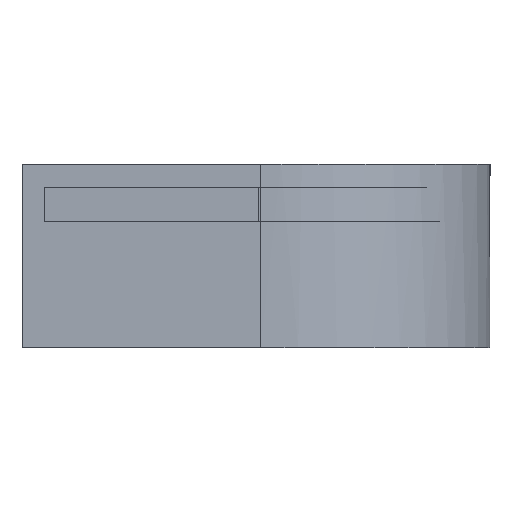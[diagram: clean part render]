
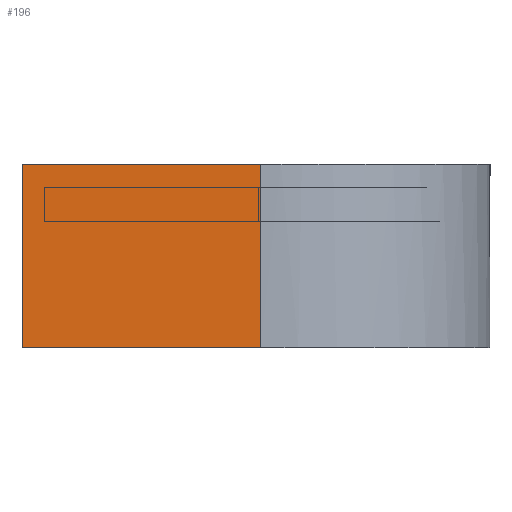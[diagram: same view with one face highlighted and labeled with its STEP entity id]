
A CAD part, left-side view. The second image highlights one B-rep face of the part: STEP entity #196.
In plain terms, the highlighted planar face has unit normal (-1, 0, 0).
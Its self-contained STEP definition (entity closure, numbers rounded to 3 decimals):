
#196=ADVANCED_FACE('',(#363),#2508,.T.);
#363=FACE_OUTER_BOUND('',#530,.T.);
#530=EDGE_LOOP('',(#758,#759,#760,#761));
#758=ORIENTED_EDGE('',*,*,#1481,.F.);
#759=ORIENTED_EDGE('',*,*,#1482,.F.);
#760=ORIENTED_EDGE('',*,*,#1478,.F.);
#761=ORIENTED_EDGE('',*,*,#1480,.F.);
#1478=EDGE_CURVE('',#2212,#2213,#1949,.T.);
#1480=EDGE_CURVE('',#2214,#2212,#1950,.T.);
#1481=EDGE_CURVE('',#2215,#2214,#1951,.T.);
#1482=EDGE_CURVE('',#2213,#2215,#1952,.T.);
#1949=B_SPLINE_CURVE_WITH_KNOTS('',1,(#3138,#3139),.UNSPECIFIED.,.F.,.F.,
(2,2),(0.,80.),.UNSPECIFIED.);
#1950=B_SPLINE_CURVE_WITH_KNOTS('',1,(#3143,#3144),.UNSPECIFIED.,.F.,.F.,
(2,2),(-104.,0.),.UNSPECIFIED.);
#1951=B_SPLINE_CURVE_WITH_KNOTS('',1,(#3145,#3146),.UNSPECIFIED.,.F.,.F.,
(2,2),(-80.,0.),.UNSPECIFIED.);
#1952=B_SPLINE_CURVE_WITH_KNOTS('',1,(#3147,#3148),.UNSPECIFIED.,.F.,.F.,
(2,2),(-104.,0.),.UNSPECIFIED.);
#2212=VERTEX_POINT('',#3061);
#2213=VERTEX_POINT('',#3062);
#2214=VERTEX_POINT('',#3063);
#2215=VERTEX_POINT('',#3064);
#2508=PLANE('',#2635);
#2635=AXIS2_PLACEMENT_3D('',#3027,#2805,$);
#2805=DIRECTION('',(-1.,0.,0.));
#3027=CARTESIAN_POINT('',(-588.981,114.692,198.069));
#3061=CARTESIAN_POINT('',(-588.981,0.292,190.069));
#3062=CARTESIAN_POINT('',(-588.981,0.292,110.069));
#3063=CARTESIAN_POINT('',(-588.981,104.292,190.069));
#3064=CARTESIAN_POINT('',(-588.981,104.292,110.069));
#3138=CARTESIAN_POINT('',(-588.981,0.292,190.069));
#3139=CARTESIAN_POINT('',(-588.981,0.292,110.069));
#3143=CARTESIAN_POINT('',(-588.981,104.292,190.069));
#3144=CARTESIAN_POINT('',(-588.981,0.292,190.069));
#3145=CARTESIAN_POINT('',(-588.981,104.292,110.069));
#3146=CARTESIAN_POINT('',(-588.981,104.292,190.069));
#3147=CARTESIAN_POINT('',(-588.981,0.292,110.069));
#3148=CARTESIAN_POINT('',(-588.981,104.292,110.069));
